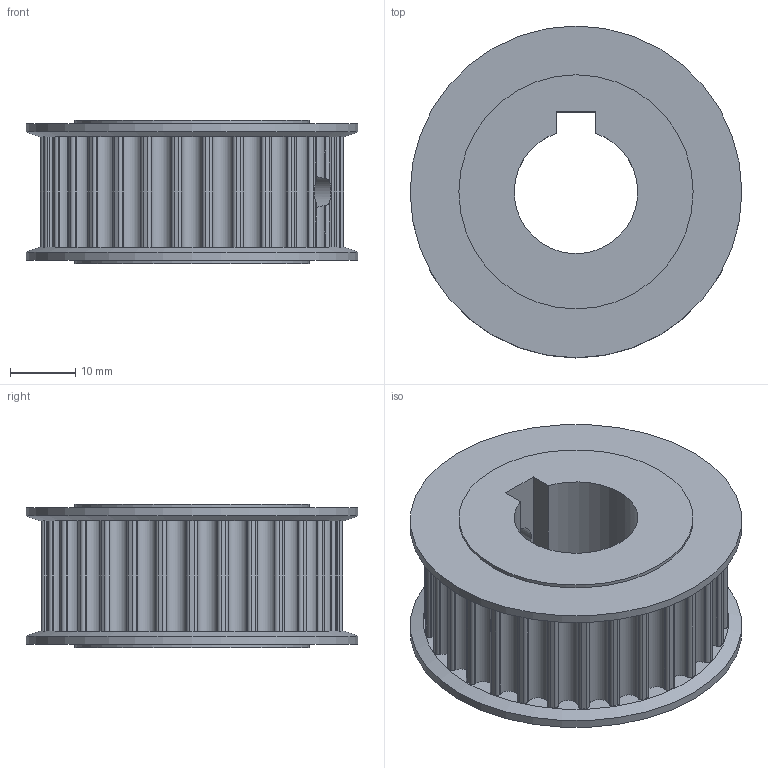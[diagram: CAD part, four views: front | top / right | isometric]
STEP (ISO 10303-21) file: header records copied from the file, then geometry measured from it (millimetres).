
FILE_DESCRIPTION(('STEP AP214'), '1');
FILE_NAME('BSY 30 5M-15 A N19 - 崹魤', '', ('UNSPECIFIED'), ('UNSPECIFIED'), 'ASCON STEP Converter 1.3', 'ASCON Math Kernel', '');
FILE_SCHEMA(('AUTOMOTIVE_DESIGN { 1 0 10303 214 3 1 1}'));
Length unit declared in the file: millimetre
Products named in the file (1): BSY-30-5M-15-A-N19
Bounding box: 51 x 51 x 22 mm (x, y, z)
Volume: 27938.1 mm3; surface area: 10466.2 mm2
Topology: 1 solids, 1 shells, 208 faces, 610 edges, 406 vertices
Faces by surface type: cylinder 133, plane 73, cone 2
Full cylindrical faces by diameter (mm): 5.188 x2, 36 x2, 51 x2
Entity records: 9462 total; most frequent: CARTESIAN_POINT 2055, DIRECTION 1246, ORIENTED_EDGE 1204, EDGE_CURVE 602, AXIS2_PLACEMENT_3D 462, VERTEX_POINT 406, LINE 322, VECTOR 322
